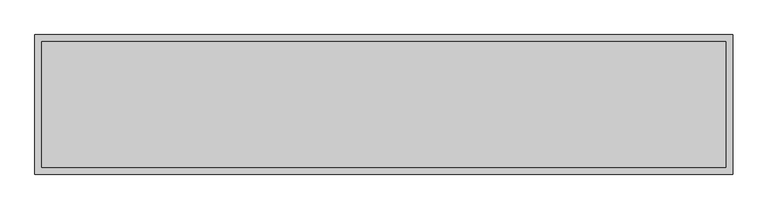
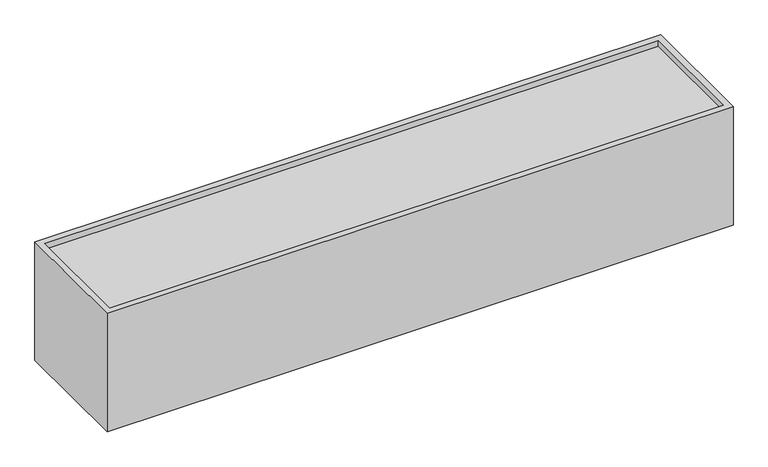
"""IFC4 building model written with IfcOpenShell, lengths in millimetres: furniture geometry, Mobile Ausstattung Materialbehälter : Materialbehälter."""

from ifc_helpers import new_model, si_unit, frame, origin, origin_with_axes, place, context, project, spatial, polyline, outline, extrude, source, transform, mapped, element, save


def furniture_d59bbce5(model_context):
    return source(origin(), model_context, "Body", "SweptSolid", [
        extrude(outline(polyline([(980.0, -180.0), (-980.0, -180.0), (-980.0, 180.0), (980.0, 180.0), (980.0, -180.0)])), frame((0.0, 0.0, 30.0), z_axis=(0.0, 0.0, 1.0), x_axis=(1.0, 0.0, 0.0)), (0.0, 0.0, 1.0), 350.0),
        extrude(outline(polyline([(980.0, -180.0), (-980.0, -180.0), (-980.0, 180.0), (980.0, 180.0), (980.0, -180.0)])), origin_with_axes(), (0.0, 0.0, 1.0), 300.0),
        extrude(outline(polyline([(1000.0, -200.0), (-1000.0, -200.0), (-1000.0, 200.0), (1000.0, 200.0), (1000.0, -200.0)]), holes=[polyline([(980.0, -180.0), (980.0, 180.0), (-980.0, 180.0), (-980.0, -180.0), (980.0, -180.0)])]), origin_with_axes(), (0.0, 0.0, 1.0), 400.0),
    ])


if __name__ == "__main__":
    model = new_model("IFC4")
    model_context = context("Model", 3, world=origin())
    ifc_project = project(units=[si_unit("LENGTHUNIT", "METRE", prefix="MILLI")], contexts=[model_context])
    site = spatial("IfcSite", under=ifc_project)
    building = spatial("IfcBuilding", under=site)
    placement = place(None, origin())
    furniture_shape = furniture_d59bbce5(model_context)
    element("IfcFurniture", 1, ObjectType="Mobile Ausstattung Materialbehälter : Materialbehälter", at=placement, inside=building, context=model_context, shape_type="MappedRepresentation", body=[
        mapped(furniture_shape, transform((0.0, 0.0, 0.0), x_axis=(1.0, 0.0, 0.0), y_axis=(0.0, 1.0, 0.0), z_axis=(0.0, 0.0, 1.0))),
    ])
    save(model, "model.ifc")
